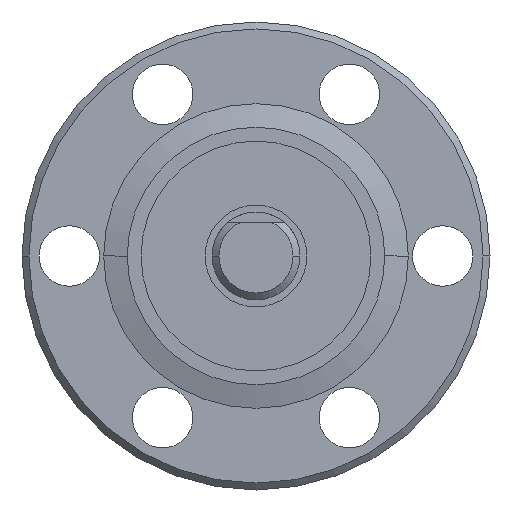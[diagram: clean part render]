
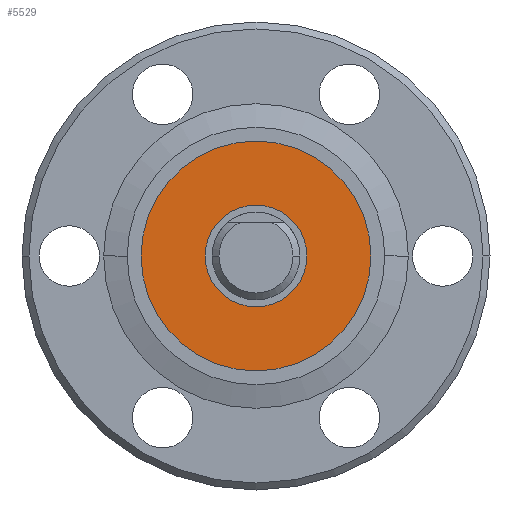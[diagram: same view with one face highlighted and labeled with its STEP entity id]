
A CAD part, left-side view. The second image highlights one B-rep face of the part: STEP entity #5529.
In plain terms, the highlighted planar face has unit normal (-1, 0, 0).
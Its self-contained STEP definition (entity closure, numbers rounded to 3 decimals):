
#5528 = EDGE_CURVE ( 'NONE', #6808, #6811, #8671, .T. ) ;
#5529 = ADVANCED_FACE ( 'NONE', ( #8666, #8665 ), #8664, .T. ) ;
#5530 = EDGE_LOOP ( 'NONE', ( #5531, #5533 ) ) ;
#5531 = ORIENTED_EDGE ( 'NONE', *, *, #5532, .F. ) ;
#5532 = EDGE_CURVE ( 'NONE', #6780, #6777, #8659, .T. ) ;
#5533 = ORIENTED_EDGE ( 'NONE', *, *, #6779, .F. ) ;
#5534 = EDGE_LOOP ( 'NONE', ( #5535, #5536 ) ) ;
#5535 = ORIENTED_EDGE ( 'NONE', *, *, #6810, .T. ) ;
#5536 = ORIENTED_EDGE ( 'NONE', *, *, #5528, .T. ) ;
#6777 = VERTEX_POINT ( 'NONE', #12951 ) ;
#6779 = EDGE_CURVE ( 'NONE', #6777, #6780, #12950, .T. ) ;
#6780 = VERTEX_POINT ( 'NONE', #12945 ) ;
#6808 = VERTEX_POINT ( 'NONE', #13113 ) ;
#6810 = EDGE_CURVE ( 'NONE', #6811, #6808, #13112, .T. ) ;
#6811 = VERTEX_POINT ( 'NONE', #13107 ) ;
#8656 = DIRECTION ( 'NONE',  ( 1., 0., 0. ) ) ;
#8657 = CARTESIAN_POINT ( 'NONE',  ( 21.25, 0., 0. ) ) ;
#8658 = AXIS2_PLACEMENT_3D ( 'NONE', #8657, #8656, #8717 ) ;
#8659 = CIRCLE ( 'NONE', #8658, 8.3 ) ;
#8660 = DIRECTION ( 'NONE',  ( 0., -1., 0. ) ) ;
#8661 = DIRECTION ( 'NONE',  ( -1., 0., 0. ) ) ;
#8662 = CARTESIAN_POINT ( 'NONE',  ( 21.25, 0., 0. ) ) ;
#8663 = AXIS2_PLACEMENT_3D ( 'NONE', #8662, #8661, #8660 ) ;
#8664 = PLANE ( 'NONE',  #8663 ) ;
#8665 = FACE_BOUND ( 'NONE', #5534, .T. ) ;
#8666 = FACE_OUTER_BOUND ( 'NONE', #5530, .T. ) ;
#8667 = DIRECTION ( 'NONE',  ( 0., -1., 0. ) ) ;
#8668 = DIRECTION ( 'NONE',  ( 1., 0., 0. ) ) ;
#8669 = CARTESIAN_POINT ( 'NONE',  ( 21.25, 0., 0. ) ) ;
#8670 = AXIS2_PLACEMENT_3D ( 'NONE', #8669, #8668, #8667 ) ;
#8671 = CIRCLE ( 'NONE', #8670, 3.675 ) ;
#8717 = DIRECTION ( 'NONE',  ( 0., -1., 0. ) ) ;
#12945 = CARTESIAN_POINT ( 'NONE',  ( 21.25, 8.3, 0. ) ) ;
#12946 = DIRECTION ( 'NONE',  ( 0., -1., 0. ) ) ;
#12947 = DIRECTION ( 'NONE',  ( 1., 0., 0. ) ) ;
#12948 = CARTESIAN_POINT ( 'NONE',  ( 21.25, 0., 0. ) ) ;
#12949 = AXIS2_PLACEMENT_3D ( 'NONE', #12948, #12947, #12946 ) ;
#12950 = CIRCLE ( 'NONE', #12949, 8.3 ) ;
#12951 = CARTESIAN_POINT ( 'NONE',  ( 21.25, -8.3, 0. ) ) ;
#13107 = CARTESIAN_POINT ( 'NONE',  ( 21.25, -3.675, 0. ) ) ;
#13108 = DIRECTION ( 'NONE',  ( 0., -1., 0. ) ) ;
#13109 = DIRECTION ( 'NONE',  ( 1., 0., 0. ) ) ;
#13110 = CARTESIAN_POINT ( 'NONE',  ( 21.25, 0., 0. ) ) ;
#13111 = AXIS2_PLACEMENT_3D ( 'NONE', #13110, #13109, #13108 ) ;
#13112 = CIRCLE ( 'NONE', #13111, 3.675 ) ;
#13113 = CARTESIAN_POINT ( 'NONE',  ( 21.25, 3.675, 0. ) ) ;
